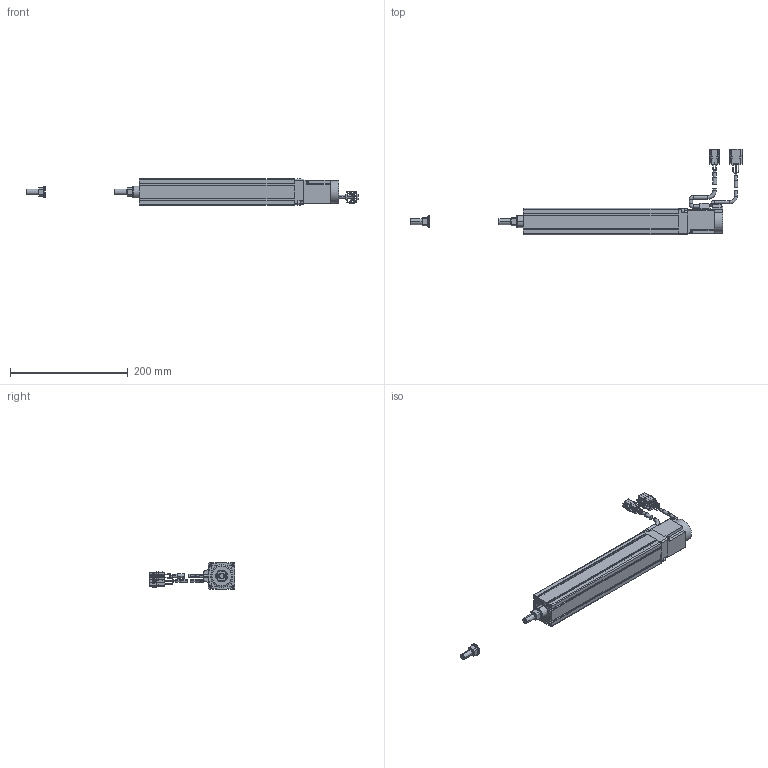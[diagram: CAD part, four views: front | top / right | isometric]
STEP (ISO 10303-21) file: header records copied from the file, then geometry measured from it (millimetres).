
FILE_DESCRIPTION((''),'2;1');
FILE_NAME('BET4D-ST-C_N-15_IGS_PRT','2017-06-18T',(' '),(''),'PRO/ENGINEER BY PARAMETRIC TECHNOLOGY CORPORATION, 2015030','PRO/ENGINEER BY PARAMETRIC TECHNOLOGY CORPORATION, 2015030','');
FILE_SCHEMA(('CONFIG_CONTROL_DESIGN'));
Length unit declared in the file: millimetre
Products named in the file (1): BET4D-ST-C_N-15_IGS_PRT
Bounding box: 563.4 x 145.7 x 45 mm (x, y, z)
Volume: 498728.2 mm3; surface area: 167121.8 mm2
Topology: 5 solids, 29 shells, 847 faces, 2188 edges, 1410 vertices
Faces by surface type: plane 535, cylinder 226, torus 64, cone 18, sphere 4
Entity records: 25983 total; most frequent: CARTESIAN_POINT 4823, DIRECTION 4418, ORIENTED_EDGE 4312, EDGE_CURVE 2184, VECTOR 1532, LINE 1532, AXIS2_PLACEMENT_3D 1443, VERTEX_POINT 1410
